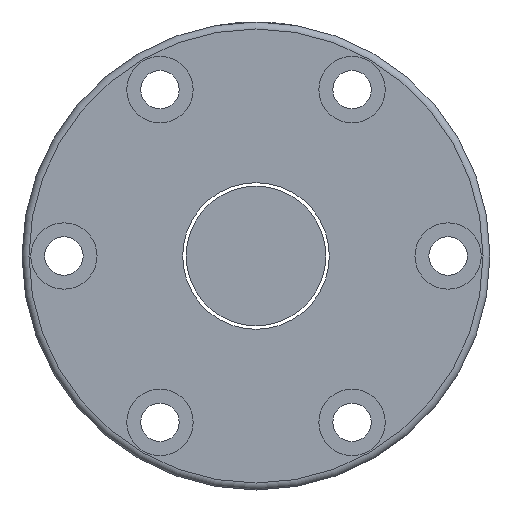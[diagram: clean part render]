
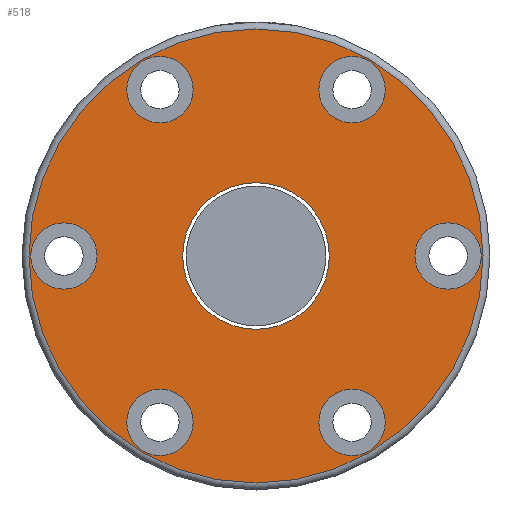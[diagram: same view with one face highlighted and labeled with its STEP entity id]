
A CAD part, left-side view. The second image highlights one B-rep face of the part: STEP entity #518.
In plain terms, the highlighted planar face has unit normal (-1, 0, 0).
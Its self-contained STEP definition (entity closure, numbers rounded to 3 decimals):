
#73=PLANE('',#614);
#138=ORIENTED_EDGE('',*,*,#214,.T.);
#139=ORIENTED_EDGE('',*,*,#212,.F.);
#140=ORIENTED_EDGE('',*,*,#198,.T.);
#141=ORIENTED_EDGE('',*,*,#194,.T.);
#142=ORIENTED_EDGE('',*,*,#190,.T.);
#143=ORIENTED_EDGE('',*,*,#186,.T.);
#144=ORIENTED_EDGE('',*,*,#182,.T.);
#145=ORIENTED_EDGE('',*,*,#178,.T.);
#178=EDGE_CURVE('',#228,#228,#273,.T.);
#182=EDGE_CURVE('',#232,#232,#277,.T.);
#186=EDGE_CURVE('',#236,#236,#281,.T.);
#190=EDGE_CURVE('',#240,#240,#285,.T.);
#194=EDGE_CURVE('',#244,#244,#289,.T.);
#198=EDGE_CURVE('',#248,#248,#293,.T.);
#212=EDGE_CURVE('',#262,#262,#303,.T.);
#214=EDGE_CURVE('',#264,#264,#305,.T.);
#228=VERTEX_POINT('',#794);
#232=VERTEX_POINT('',#805);
#236=VERTEX_POINT('',#816);
#240=VERTEX_POINT('',#827);
#244=VERTEX_POINT('',#838);
#248=VERTEX_POINT('',#849);
#262=VERTEX_POINT('',#903);
#264=VERTEX_POINT('',#909);
#273=CIRCLE('',#558,4.75);
#277=CIRCLE('',#565,4.75);
#281=CIRCLE('',#572,4.75);
#285=CIRCLE('',#579,4.75);
#289=CIRCLE('',#586,4.75);
#293=CIRCLE('',#593,4.75);
#303=CIRCLE('',#611,32.5);
#305=CIRCLE('',#615,10.5);
#369=EDGE_LOOP('',(#138));
#370=EDGE_LOOP('',(#139));
#371=EDGE_LOOP('',(#140));
#372=EDGE_LOOP('',(#141));
#373=EDGE_LOOP('',(#142));
#374=EDGE_LOOP('',(#143));
#375=EDGE_LOOP('',(#144));
#376=EDGE_LOOP('',(#145));
#450=FACE_BOUND('',#369,.T.);
#451=FACE_BOUND('',#370,.T.);
#452=FACE_BOUND('',#371,.T.);
#453=FACE_BOUND('',#372,.T.);
#454=FACE_BOUND('',#373,.T.);
#455=FACE_BOUND('',#374,.T.);
#456=FACE_BOUND('',#375,.T.);
#457=FACE_BOUND('',#376,.T.);
#518=ADVANCED_FACE('',(#450,#451,#452,#453,#454,#455,#456,#457),#73,.F.);
#558=AXIS2_PLACEMENT_3D('',#793,#639,#640);
#565=AXIS2_PLACEMENT_3D('',#804,#653,#654);
#572=AXIS2_PLACEMENT_3D('',#815,#667,#668);
#579=AXIS2_PLACEMENT_3D('',#826,#681,#682);
#586=AXIS2_PLACEMENT_3D('',#837,#695,#696);
#593=AXIS2_PLACEMENT_3D('',#848,#709,#710);
#611=AXIS2_PLACEMENT_3D('',#902,#745,#746);
#614=AXIS2_PLACEMENT_3D('',#907,#751,#752);
#615=AXIS2_PLACEMENT_3D('',#908,#753,#754);
#639=DIRECTION('',(1.,0.,0.));
#640=DIRECTION('',(0.,0.5,-0.866));
#653=DIRECTION('',(1.,0.,0.));
#654=DIRECTION('',(0.,-0.5,-0.866));
#667=DIRECTION('',(1.,0.,0.));
#668=DIRECTION('',(0.,-1.,0.));
#681=DIRECTION('',(1.,0.,0.));
#682=DIRECTION('',(0.,-0.5,0.866));
#695=DIRECTION('',(1.,0.,0.));
#696=DIRECTION('',(0.,0.5,0.866));
#709=DIRECTION('',(1.,0.,0.));
#710=DIRECTION('',(0.,1.,0.));
#745=DIRECTION('',(1.,0.,0.));
#746=DIRECTION('',(0.,1.,0.));
#751=DIRECTION('',(1.,0.,0.));
#752=DIRECTION('',(0.,0.,1.));
#753=DIRECTION('',(1.,0.,0.));
#754=DIRECTION('',(0.,-1.,0.));
#793=CARTESIAN_POINT('',(-57.,-27.5,0.));
#794=CARTESIAN_POINT('',(-57.,-25.125,-4.114));
#804=CARTESIAN_POINT('',(-57.,-13.75,23.816));
#805=CARTESIAN_POINT('',(-57.,-16.125,19.702));
#815=CARTESIAN_POINT('',(-57.,13.75,23.816));
#816=CARTESIAN_POINT('',(-57.,9.,23.816));
#826=CARTESIAN_POINT('',(-57.,27.5,0.));
#827=CARTESIAN_POINT('',(-57.,25.125,4.114));
#837=CARTESIAN_POINT('',(-57.,13.75,-23.816));
#838=CARTESIAN_POINT('',(-57.,16.125,-19.702));
#848=CARTESIAN_POINT('',(-57.,-13.75,-23.816));
#849=CARTESIAN_POINT('',(-57.,-9.,-23.816));
#902=CARTESIAN_POINT('',(-57.,0.,0.));
#903=CARTESIAN_POINT('',(-57.,32.5,0.));
#907=CARTESIAN_POINT('',(-57.,0.,0.));
#908=CARTESIAN_POINT('',(-57.,0.,0.));
#909=CARTESIAN_POINT('',(-57.,-10.5,0.));
